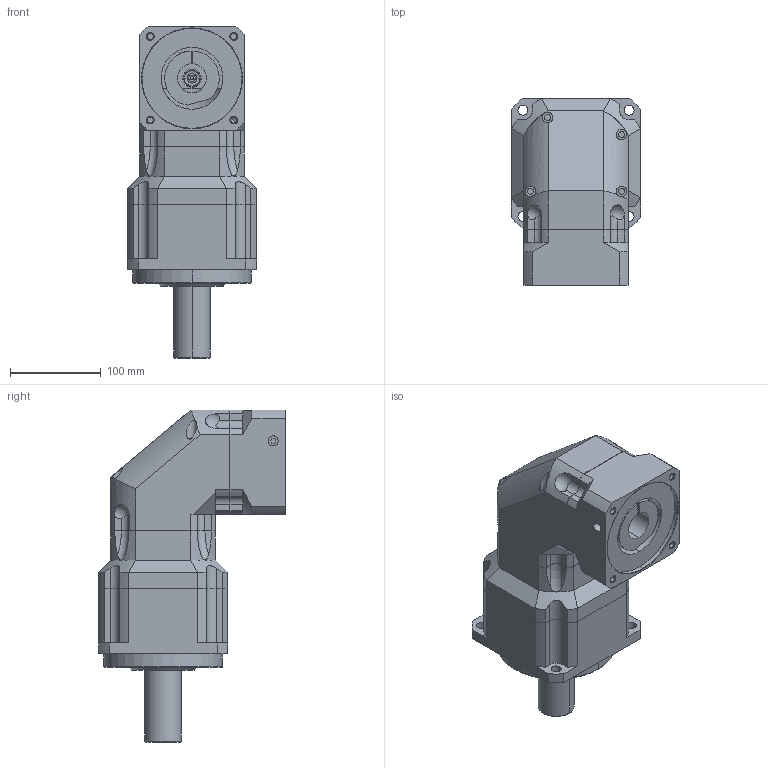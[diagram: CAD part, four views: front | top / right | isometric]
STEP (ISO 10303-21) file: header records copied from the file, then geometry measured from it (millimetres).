
FILE_DESCRIPTION((''),'2;1');
FILE_NAME('ABR1422-P0401400502_ASM','2016-04-18T',('d00435'),(''),'PRO/ENGINEER BY PARAMETRIC TECHNOLOGY CORPORATION, 2008410','PRO/ENGINEER BY PARAMETRIC TECHNOLOGY CORPORATION, 2008410','');
FILE_SCHEMA(('CONFIG_CONTROL_DESIGN'));
Length unit declared in the file: millimetre
Products named in the file (5): AB1422_AF6; AB1422-1_AF6; PD040001; P0401400502; ABR1422-P0401400502_ASM
Assembly tree (4 placements, depth 2):
  ABR1422-P0401400502_ASM
    AB1422_AF6
    AB1422-1_AF6
    PD040001
    P0401400502
Bounding box: 142 x 205.5 x 365 mm (x, y, z)
Volume: 3900574.3 mm3; surface area: 355854.2 mm2
Topology: 5 solids, 16 shells, 491 faces, 1197 edges, 739 vertices
Faces by surface type: cylinder 185, plane 178, cone 96, torus 24, bspline 4, sphere 4
Entity records: 15169 total; most frequent: CARTESIAN_POINT 3326, DIRECTION 2614, ORIENTED_EDGE 2318, EDGE_CURVE 1183, AXIS2_PLACEMENT_3D 1031, VERTEX_POINT 739, VECTOR 552, LINE 552
